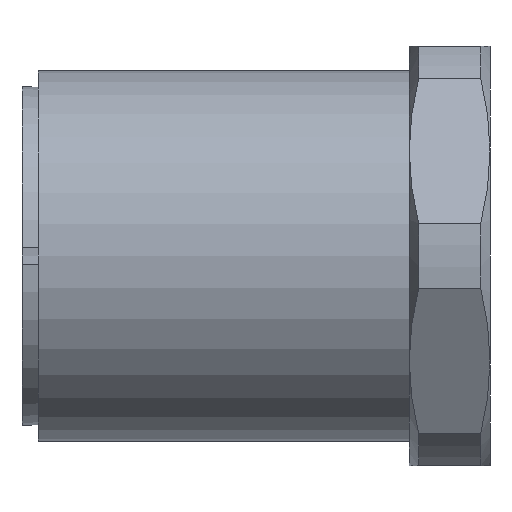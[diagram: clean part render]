
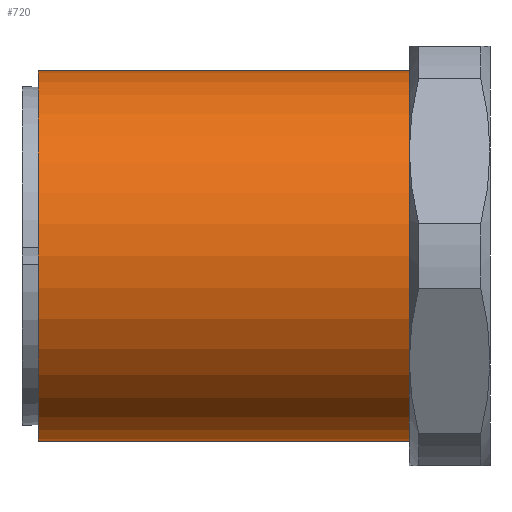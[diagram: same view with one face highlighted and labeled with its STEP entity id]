
A CAD part, front view. The second image highlights one B-rep face of the part: STEP entity #720.
In plain terms, the highlighted cylindrical face has radius 11.5 mm (diameter 23 mm), a partial arc.
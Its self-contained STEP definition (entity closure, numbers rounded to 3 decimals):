
#26 = DIRECTION ( 'NONE',  ( 0., 0., 1. ) ) ;
#142 = DIRECTION ( 'NONE',  ( -1., 0., 0. ) ) ;
#202 = DIRECTION ( 'NONE',  ( 0., 0., 1. ) ) ;
#204 = DIRECTION ( 'NONE',  ( -1., 0., 0. ) ) ;
#207 = CARTESIAN_POINT ( 'NONE',  ( 0., 0., 0. ) ) ;
#307 = CARTESIAN_POINT ( 'NONE',  ( 0., 0., 11.5 ) ) ;
#325 = CARTESIAN_POINT ( 'NONE',  ( 23., 0., -11.5 ) ) ;
#331 = CARTESIAN_POINT ( 'NONE',  ( 0., 0., -11.5 ) ) ;
#375 = CARTESIAN_POINT ( 'NONE',  ( 23., 0., 11.5 ) ) ;
#377 = VERTEX_POINT ( 'NONE', #375 ) ;
#411 = VERTEX_POINT ( 'NONE', #331 ) ;
#412 = VERTEX_POINT ( 'NONE', #325 ) ;
#429 = VERTEX_POINT ( 'NONE', #307 ) ;
#484 = DIRECTION ( 'NONE',  ( 0., 0., 1. ) ) ;
#494 = DIRECTION ( 'NONE',  ( -1., 0., 0. ) ) ;
#544 = CARTESIAN_POINT ( 'NONE',  ( 0., 0., 0. ) ) ;
#554 = CARTESIAN_POINT ( 'NONE',  ( 0., 0., -11.5 ) ) ;
#559 = CARTESIAN_POINT ( 'NONE',  ( 0., 0., 11.5 ) ) ;
#563 = DIRECTION ( 'NONE',  ( -1., 0., 0. ) ) ;
#570 = DIRECTION ( 'NONE',  ( -1., 0., 0. ) ) ;
#601 = CARTESIAN_POINT ( 'NONE',  ( 23., 0., 0. ) ) ;
#720 = ADVANCED_FACE ( 'NONE', ( #1391 ), #1422, .T. ) ;
#834 = ORIENTED_EDGE ( 'NONE', *, *, #989, .F. ) ;
#836 = ORIENTED_EDGE ( 'NONE', *, *, #985, .T. ) ;
#837 = ORIENTED_EDGE ( 'NONE', *, *, #993, .T. ) ;
#838 = ORIENTED_EDGE ( 'NONE', *, *, #994, .F. ) ;
#933 = EDGE_LOOP ( 'NONE', ( #834, #836, #837, #838 ) ) ;
#985 = EDGE_CURVE ( 'NONE', #412, #377, #1325, .T. ) ;
#989 = EDGE_CURVE ( 'NONE', #412, #411, #1326, .T. ) ;
#993 = EDGE_CURVE ( 'NONE', #377, #429, #1352, .T. ) ;
#994 = EDGE_CURVE ( 'NONE', #411, #429, #1300, .T. ) ;
#1021 = AXIS2_PLACEMENT_3D ( 'NONE', #207, #204, #202 ) ;
#1163 = AXIS2_PLACEMENT_3D ( 'NONE', #544, #494, #484 ) ;
#1165 = AXIS2_PLACEMENT_3D ( 'NONE', #601, #142, #26 ) ;
#1300 = CIRCLE ( 'NONE', #1163, 11.5 ) ;
#1312 = VECTOR ( 'NONE', #563, 1000. ) ;
#1325 = CIRCLE ( 'NONE', #1165, 11.5 ) ;
#1326 = LINE ( 'NONE', #554, #1312 ) ;
#1351 = VECTOR ( 'NONE', #570, 1000. ) ;
#1352 = LINE ( 'NONE', #559, #1351 ) ;
#1391 = FACE_OUTER_BOUND ( 'NONE', #933, .T. ) ;
#1422 = CYLINDRICAL_SURFACE ( 'NONE', #1021, 11.5 ) ;
